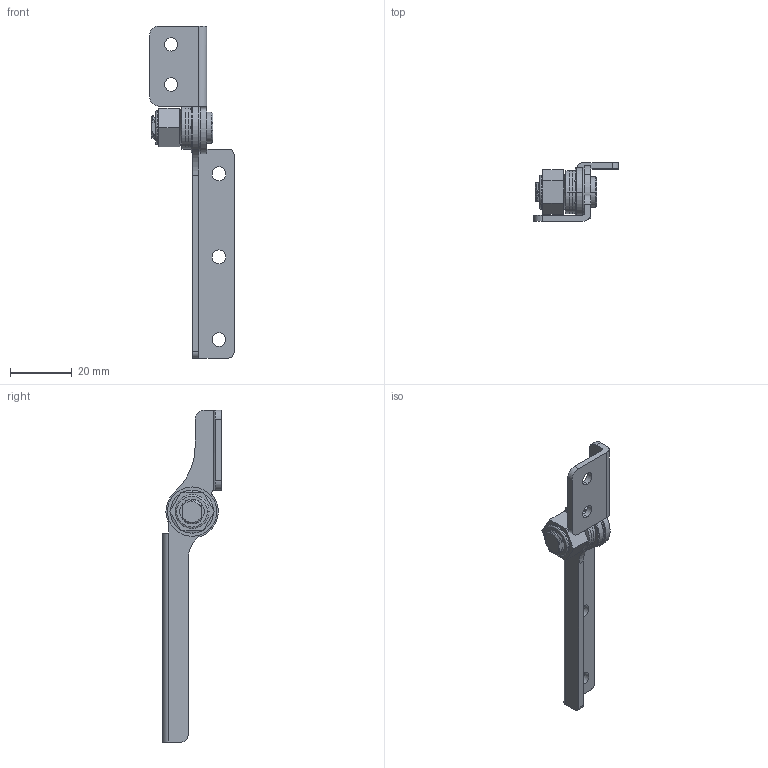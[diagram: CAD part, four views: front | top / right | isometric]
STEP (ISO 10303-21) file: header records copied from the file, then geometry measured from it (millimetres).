
FILE_DESCRIPTION (( 'STEP AP203' ), '1' );
FILE_NAME ('XG11-047-2L.STEP', '2025-07-26T07:54:52', ( '微软用户' ), ( '微软中国' ), 'SwSTEP 2.0', 'SolidWorks 2024', '' );
FILE_SCHEMA (( 'CONFIG_CONTROL_DESIGN' ));
Length unit declared in the file: millimetre
Products named in the file (1): XG11-047-2L
Bounding box: 27.5 x 19.06 x 107.81 mm (x, y, z)
Volume: 6576.4 mm3; surface area: 8662.9 mm2
Topology: 10 solids, 10 shells, 238 faces, 633 edges, 417 vertices
Faces by surface type: plane 102, cylinder 89, bspline 32, cone 13, torus 2
Entity records: 11952 total; most frequent: CARTESIAN_POINT 6062, ORIENTED_EDGE 1266, DIRECTION 1118, EDGE_CURVE 633, VERTEX_POINT 417, AXIS2_PLACEMENT_3D 406, LINE 306, VECTOR 306
